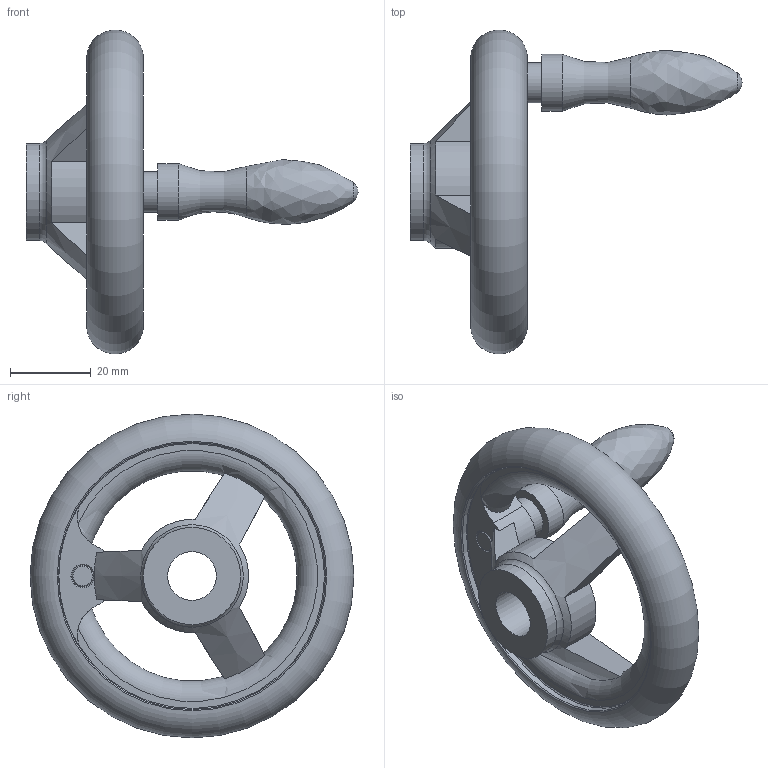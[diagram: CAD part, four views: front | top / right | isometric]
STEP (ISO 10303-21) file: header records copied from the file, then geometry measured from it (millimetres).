
FILE_DESCRIPTION( ( 'STEP AP203' ), '1' );
FILE_NAME( 'C:/Temp/Ganter_Step_05_03_2020/data/1_3/din_950/din_950_b/din_950_b_d/Handwheel DIN 950-GG-80-B12-D.stp', '2020-03-05T10:29:33', ( 'License CC BY-ND 4.0' ), ( 'CADENAS' ), ' ', 'PARTsolutions', ' ' );
FILE_SCHEMA( ( 'CONFIG_CONTROL_DESIGN' ) );
Length unit declared in the file: millimetre
Products named in the file (1): _Handwheel DIN 950-GG-80-B12-D
Bounding box: 82 x 79.97 x 79.97 mm (x, y, z)
Volume: 46079 mm3; surface area: 15951.8 mm2
Topology: 1 solids, 1 shells, 45 faces, 126 edges, 80 vertices
Faces by surface type: plane 15, cylinder 13, torus 11, cone 4, bspline 1, sphere 1
Full cylindrical faces by diameter (mm): 10 x1, 12 x1, 14 x1, 24 x2, 66 x2
Entity records: 1613 total; most frequent: CARTESIAN_POINT 541, DIRECTION 214, ORIENTED_EDGE 194, AXIS2_PLACEMENT_3D 101, EDGE_CURVE 97, VERTEX_POINT 74, EDGE_LOOP 71, FACE_OUTER_BOUND 61
